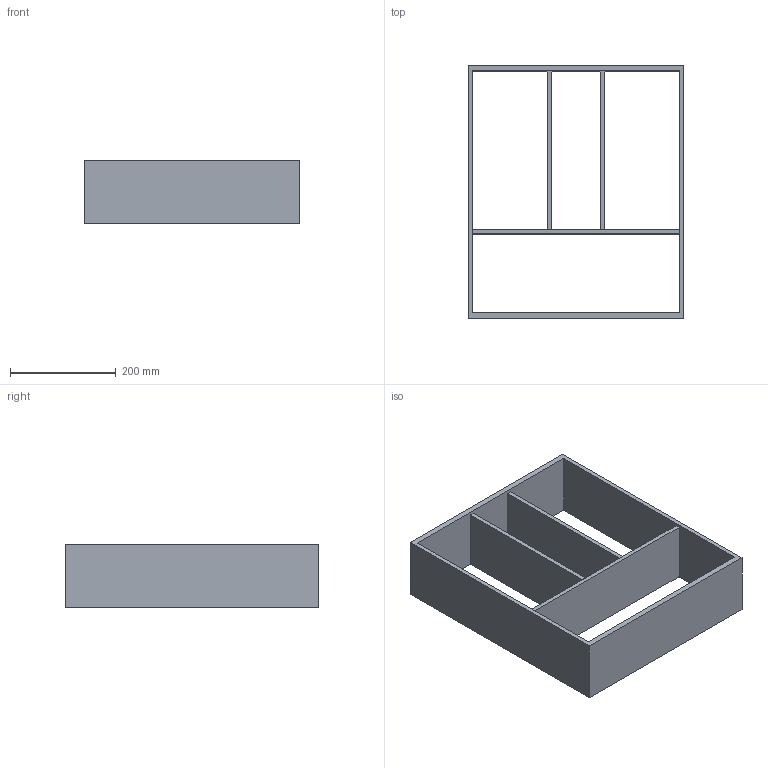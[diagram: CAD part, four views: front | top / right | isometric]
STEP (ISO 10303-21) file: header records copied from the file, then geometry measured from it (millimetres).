
FILE_DESCRIPTION (( 'STEP AP214' ), '1' );
FILE_NAME ('Vario Multi H120 NL500_B500_16 mm_Alu-Alu.step', '2010-10-08T09:48:03', ( 'grass' ), ( '' ), 'SwSTEP 2.0', 'SolidWorks 2010', '' );
FILE_SCHEMA (( 'AUTOMOTIVE_DESIGN' ));
Length unit declared in the file: millimetre
Products named in the file (1): Vario Multi H120 NL500_B500_16 mm_Alu-Alu
Bounding box: 408 x 479 x 120 mm (x, y, z)
Volume: 2858676 mm3; surface area: 685640 mm2
Topology: 1 solids, 1 shells, 22 faces, 60 edges, 40 vertices
Faces by surface type: plane 22
Entity records: 734 total; most frequent: CARTESIAN_POINT 123, ORIENTED_EDGE 120, DIRECTION 106, VECTOR 60, LINE 60, EDGE_CURVE 60, VERTEX_POINT 40, EDGE_LOOP 30
